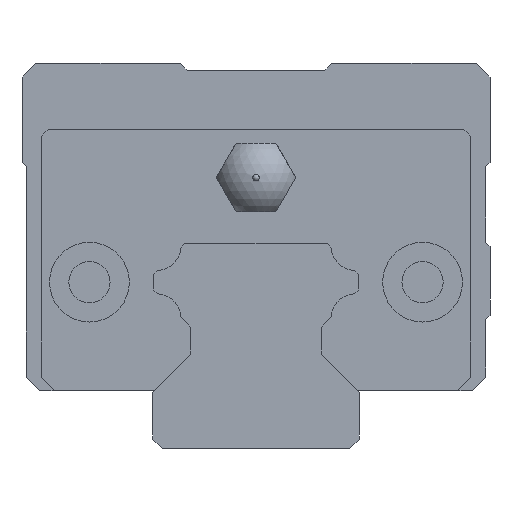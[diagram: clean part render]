
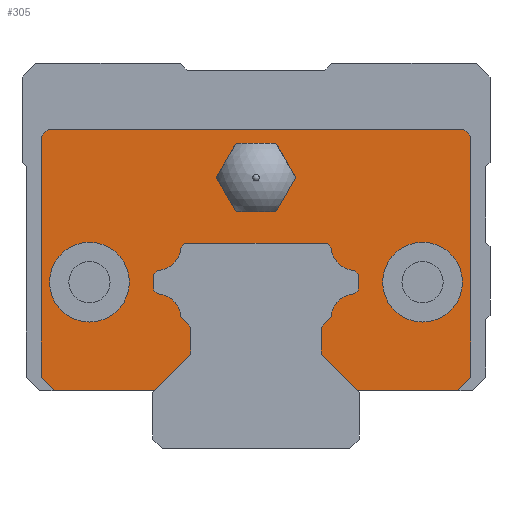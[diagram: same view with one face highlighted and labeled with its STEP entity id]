
A CAD part, front view. The second image highlights one B-rep face of the part: STEP entity #305.
In plain terms, the highlighted planar face has unit normal (0, -1, 0).
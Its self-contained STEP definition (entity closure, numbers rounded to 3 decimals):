
#141=FACE_BOUND('',#657,.T.);
#142=FACE_BOUND('',#658,.T.);
#190=CIRCLE('',#2401,1.8);
#192=CIRCLE('',#2407,1.8);
#194=CIRCLE('',#2413,1.8);
#196=CIRCLE('',#2419,1.8);
#203=CIRCLE('',#2458,2.9);
#204=CIRCLE('',#2459,2.9);
#305=ADVANCED_FACE('',(#141,#142,#533),#427,.F.);
#427=PLANE('',#2460);
#533=FACE_OUTER_BOUND('',#659,.T.);
#657=EDGE_LOOP('',(#1039));
#658=EDGE_LOOP('',(#1040));
#659=EDGE_LOOP('',(#1041,#1042,#1043,#1044,#1045,#1046,#1047,#1048,#1049,
#1050,#1051,#1052,#1053,#1054,#1055,#1056,#1057,#1058,#1059,#1060,#1061,
#1062,#1063,#1064,#1065,#1066,#1067,#1068));
#1039=ORIENTED_EDGE('',*,*,#1754,.F.);
#1040=ORIENTED_EDGE('',*,*,#1755,.F.);
#1041=ORIENTED_EDGE('',*,*,#1740,.F.);
#1042=ORIENTED_EDGE('',*,*,#1753,.T.);
#1043=ORIENTED_EDGE('',*,*,#1751,.T.);
#1044=ORIENTED_EDGE('',*,*,#1749,.T.);
#1045=ORIENTED_EDGE('',*,*,#1686,.T.);
#1046=ORIENTED_EDGE('',*,*,#1681,.F.);
#1047=ORIENTED_EDGE('',*,*,#1678,.F.);
#1048=ORIENTED_EDGE('',*,*,#1675,.T.);
#1049=ORIENTED_EDGE('',*,*,#1672,.F.);
#1050=ORIENTED_EDGE('',*,*,#1669,.F.);
#1051=ORIENTED_EDGE('',*,*,#1666,.T.);
#1052=ORIENTED_EDGE('',*,*,#1663,.T.);
#1053=ORIENTED_EDGE('',*,*,#1660,.T.);
#1054=ORIENTED_EDGE('',*,*,#1657,.T.);
#1055=ORIENTED_EDGE('',*,*,#1654,.F.);
#1056=ORIENTED_EDGE('',*,*,#1651,.T.);
#1057=ORIENTED_EDGE('',*,*,#1648,.F.);
#1058=ORIENTED_EDGE('',*,*,#1645,.T.);
#1059=ORIENTED_EDGE('',*,*,#1642,.T.);
#1060=ORIENTED_EDGE('',*,*,#1639,.T.);
#1061=ORIENTED_EDGE('',*,*,#1636,.T.);
#1062=ORIENTED_EDGE('',*,*,#1633,.T.);
#1063=ORIENTED_EDGE('',*,*,#1630,.F.);
#1064=ORIENTED_EDGE('',*,*,#1624,.T.);
#1065=ORIENTED_EDGE('',*,*,#1748,.T.);
#1066=ORIENTED_EDGE('',*,*,#1746,.F.);
#1067=ORIENTED_EDGE('',*,*,#1744,.F.);
#1068=ORIENTED_EDGE('',*,*,#1742,.F.);
#1398=VERTEX_POINT('',#3277);
#1399=VERTEX_POINT('',#3279);
#1402=VERTEX_POINT('',#3287);
#1404=VERTEX_POINT('',#3293);
#1406=VERTEX_POINT('',#3299);
#1408=VERTEX_POINT('',#3305);
#1410=VERTEX_POINT('',#3311);
#1412=VERTEX_POINT('',#3317);
#1414=VERTEX_POINT('',#3323);
#1416=VERTEX_POINT('',#3329);
#1418=VERTEX_POINT('',#3335);
#1420=VERTEX_POINT('',#3341);
#1422=VERTEX_POINT('',#3347);
#1424=VERTEX_POINT('',#3353);
#1426=VERTEX_POINT('',#3359);
#1428=VERTEX_POINT('',#3365);
#1430=VERTEX_POINT('',#3371);
#1432=VERTEX_POINT('',#3377);
#1434=VERTEX_POINT('',#3383);
#1436=VERTEX_POINT('',#3389);
#1442=VERTEX_POINT('',#3403);
#1481=VERTEX_POINT('',#3516);
#1482=VERTEX_POINT('',#3518);
#1483=VERTEX_POINT('',#3522);
#1484=VERTEX_POINT('',#3526);
#1485=VERTEX_POINT('',#3530);
#1486=VERTEX_POINT('',#3536);
#1487=VERTEX_POINT('',#3540);
#1488=VERTEX_POINT('',#3546);
#1489=VERTEX_POINT('',#3548);
#1624=EDGE_CURVE('',#1399,#1398,#1927,.T.);
#1630=EDGE_CURVE('',#1399,#1402,#1933,.T.);
#1633=EDGE_CURVE('',#1404,#1402,#1936,.T.);
#1636=EDGE_CURVE('',#1406,#1404,#1939,.T.);
#1639=EDGE_CURVE('',#1408,#1406,#190,.T.);
#1642=EDGE_CURVE('',#1410,#1408,#1943,.T.);
#1645=EDGE_CURVE('',#1412,#1410,#1946,.T.);
#1648=EDGE_CURVE('',#1412,#1414,#1949,.T.);
#1651=EDGE_CURVE('',#1416,#1414,#192,.T.);
#1654=EDGE_CURVE('',#1416,#1418,#1953,.T.);
#1657=EDGE_CURVE('',#1420,#1418,#1956,.T.);
#1660=EDGE_CURVE('',#1422,#1420,#1959,.T.);
#1663=EDGE_CURVE('',#1424,#1422,#194,.T.);
#1666=EDGE_CURVE('',#1426,#1424,#1963,.T.);
#1669=EDGE_CURVE('',#1426,#1428,#1966,.T.);
#1672=EDGE_CURVE('',#1428,#1430,#1969,.T.);
#1675=EDGE_CURVE('',#1432,#1430,#196,.T.);
#1678=EDGE_CURVE('',#1432,#1434,#1973,.T.);
#1681=EDGE_CURVE('',#1434,#1436,#1976,.T.);
#1686=EDGE_CURVE('',#1442,#1436,#1981,.T.);
#1740=EDGE_CURVE('',#1481,#1482,#2029,.T.);
#1742=EDGE_CURVE('',#1482,#1483,#2031,.T.);
#1744=EDGE_CURVE('',#1483,#1484,#2033,.T.);
#1746=EDGE_CURVE('',#1484,#1485,#2035,.T.);
#1748=EDGE_CURVE('',#1398,#1485,#2037,.T.);
#1749=EDGE_CURVE('',#1486,#1442,#2038,.T.);
#1751=EDGE_CURVE('',#1487,#1486,#2040,.T.);
#1753=EDGE_CURVE('',#1481,#1487,#2042,.T.);
#1754=EDGE_CURVE('',#1488,#1488,#203,.T.);
#1755=EDGE_CURVE('',#1489,#1489,#204,.T.);
#1927=LINE('',#3278,#2173);
#1933=LINE('',#3290,#2179);
#1936=LINE('',#3296,#2182);
#1939=LINE('',#3302,#2185);
#1943=LINE('',#3314,#2189);
#1946=LINE('',#3320,#2192);
#1949=LINE('',#3326,#2195);
#1953=LINE('',#3338,#2199);
#1956=LINE('',#3344,#2202);
#1959=LINE('',#3350,#2205);
#1963=LINE('',#3362,#2209);
#1966=LINE('',#3368,#2212);
#1969=LINE('',#3374,#2215);
#1973=LINE('',#3386,#2219);
#1976=LINE('',#3392,#2222);
#1981=LINE('',#3402,#2227);
#2029=LINE('',#3517,#2275);
#2031=LINE('',#3521,#2277);
#2033=LINE('',#3525,#2279);
#2035=LINE('',#3529,#2281);
#2037=LINE('',#3533,#2283);
#2038=LINE('',#3535,#2284);
#2040=LINE('',#3539,#2286);
#2042=LINE('',#3543,#2288);
#2173=VECTOR('',#2637,1.);
#2179=VECTOR('',#2645,1.);
#2182=VECTOR('',#2650,1.);
#2185=VECTOR('',#2655,1.);
#2189=VECTOR('',#2667,1.);
#2192=VECTOR('',#2672,1.);
#2195=VECTOR('',#2677,1.);
#2199=VECTOR('',#2689,1.);
#2202=VECTOR('',#2694,1.);
#2205=VECTOR('',#2699,1.);
#2209=VECTOR('',#2711,1.);
#2212=VECTOR('',#2716,1.);
#2215=VECTOR('',#2721,1.);
#2219=VECTOR('',#2733,1.);
#2222=VECTOR('',#2738,1.);
#2227=VECTOR('',#2745,1.);
#2275=VECTOR('',#2847,1.);
#2277=VECTOR('',#2851,1.);
#2279=VECTOR('',#2855,1.);
#2281=VECTOR('',#2859,1.);
#2283=VECTOR('',#2863,1.);
#2284=VECTOR('',#2866,1.);
#2286=VECTOR('',#2870,1.);
#2288=VECTOR('',#2874,1.);
#2401=AXIS2_PLACEMENT_3D('',#3308,#2661,#2662);
#2407=AXIS2_PLACEMENT_3D('',#3332,#2683,#2684);
#2413=AXIS2_PLACEMENT_3D('',#3356,#2705,#2706);
#2419=AXIS2_PLACEMENT_3D('',#3380,#2727,#2728);
#2458=AXIS2_PLACEMENT_3D('',#3545,#2877,#2878);
#2459=AXIS2_PLACEMENT_3D('',#3547,#2879,#2880);
#2460=AXIS2_PLACEMENT_3D('',#3549,#2881,#2882);
#2637=DIRECTION('',(1.,0.,0.));
#2645=DIRECTION('',(-0.707,0.,0.707));
#2650=DIRECTION('',(0.,0.,-1.));
#2655=DIRECTION('',(-0.707,0.,-0.707));
#2661=DIRECTION('',(0.,-1.,0.));
#2662=DIRECTION('',(1.,0.,0.));
#2667=DIRECTION('',(-0.707,0.,-0.707));
#2672=DIRECTION('',(0.,0.,-1.));
#2677=DIRECTION('',(-0.707,0.,0.707));
#2683=DIRECTION('',(0.,-1.,0.));
#2684=DIRECTION('',(1.,0.,0.));
#2689=DIRECTION('',(-0.707,0.,0.707));
#2694=DIRECTION('',(1.,0.,0.));
#2699=DIRECTION('',(0.707,0.,0.707));
#2705=DIRECTION('',(0.,-1.,0.));
#2706=DIRECTION('',(1.,0.,0.));
#2711=DIRECTION('',(0.707,0.,0.707));
#2716=DIRECTION('',(0.,0.,-1.));
#2721=DIRECTION('',(0.707,0.,-0.707));
#2727=DIRECTION('',(0.,-1.,0.));
#2728=DIRECTION('',(1.,0.,0.));
#2733=DIRECTION('',(0.707,0.,-0.707));
#2738=DIRECTION('',(0.,0.,-1.));
#2745=DIRECTION('',(0.707,0.,0.707));
#2847=DIRECTION('',(0.707,0.,0.707));
#2851=DIRECTION('',(1.,0.,0.));
#2855=DIRECTION('',(0.707,0.,-0.707));
#2859=DIRECTION('',(0.,0.,-1.));
#2863=DIRECTION('',(0.707,0.,0.707));
#2866=DIRECTION('',(1.,0.,0.));
#2870=DIRECTION('',(0.707,0.,-0.707));
#2874=DIRECTION('',(0.,0.,-1.));
#2877=DIRECTION('',(0.,-1.,0.));
#2878=DIRECTION('',(0.,0.,-1.));
#2879=DIRECTION('',(0.,-1.,0.));
#2880=DIRECTION('',(0.,0.,-1.));
#2881=DIRECTION('',(0.,1.,0.));
#2882=DIRECTION('',(0.,0.,-1.));
#3277=CARTESIAN_POINT('',(14.6,-43.6,-19.65));
#3278=CARTESIAN_POINT('',(7.401,-43.6,-19.65));
#3279=CARTESIAN_POINT('',(7.401,-43.6,-19.65));
#3287=CARTESIAN_POINT('',(4.73,-43.6,-16.979));
#3290=CARTESIAN_POINT('',(7.401,-43.6,-19.65));
#3293=CARTESIAN_POINT('',(4.73,-43.6,-15.021));
#3296=CARTESIAN_POINT('',(4.73,-43.6,-15.021));
#3299=CARTESIAN_POINT('',(5.447,-43.6,-14.304));
#3302=CARTESIAN_POINT('',(5.447,-43.6,-14.304));
#3305=CARTESIAN_POINT('',(7.154,-43.6,-12.597));
#3308=CARTESIAN_POINT('',(7.245,-43.6,-14.395));
#3311=CARTESIAN_POINT('',(7.43,-43.6,-12.321));
#3314=CARTESIAN_POINT('',(7.43,-43.6,-12.321));
#3317=CARTESIAN_POINT('',(7.43,-43.6,-11.179));
#3320=CARTESIAN_POINT('',(7.43,-43.6,-11.179));
#3323=CARTESIAN_POINT('',(7.154,-43.6,-10.903));
#3326=CARTESIAN_POINT('',(7.43,-43.6,-11.179));
#3329=CARTESIAN_POINT('',(5.447,-43.6,-9.196));
#3332=CARTESIAN_POINT('',(7.245,-43.6,-9.105));
#3335=CARTESIAN_POINT('',(5.171,-43.6,-8.92));
#3338=CARTESIAN_POINT('',(5.447,-43.6,-9.196));
#3341=CARTESIAN_POINT('',(-5.171,-43.6,-8.92));
#3344=CARTESIAN_POINT('',(-5.171,-43.6,-8.92));
#3347=CARTESIAN_POINT('',(-5.447,-43.6,-9.196));
#3350=CARTESIAN_POINT('',(-5.447,-43.6,-9.196));
#3353=CARTESIAN_POINT('',(-7.154,-43.6,-10.903));
#3356=CARTESIAN_POINT('',(-7.245,-43.6,-9.105));
#3359=CARTESIAN_POINT('',(-7.43,-43.6,-11.179));
#3362=CARTESIAN_POINT('',(-7.43,-43.6,-11.179));
#3365=CARTESIAN_POINT('',(-7.43,-43.6,-12.321));
#3368=CARTESIAN_POINT('',(-7.43,-43.6,-11.179));
#3371=CARTESIAN_POINT('',(-7.154,-43.6,-12.597));
#3374=CARTESIAN_POINT('',(-7.43,-43.6,-12.321));
#3377=CARTESIAN_POINT('',(-5.447,-43.6,-14.304));
#3380=CARTESIAN_POINT('',(-7.245,-43.6,-14.395));
#3383=CARTESIAN_POINT('',(-4.73,-43.6,-15.021));
#3386=CARTESIAN_POINT('',(-5.447,-43.6,-14.304));
#3389=CARTESIAN_POINT('',(-4.73,-43.6,-16.979));
#3392=CARTESIAN_POINT('',(-4.73,-43.6,-15.021));
#3402=CARTESIAN_POINT('',(-7.401,-43.6,-19.65));
#3403=CARTESIAN_POINT('',(-7.401,-43.6,-19.65));
#3516=CARTESIAN_POINT('',(-15.6,-43.6,-1.15));
#3517=CARTESIAN_POINT('',(-15.6,-43.6,-1.15));
#3518=CARTESIAN_POINT('',(-15.1,-43.6,-0.65));
#3521=CARTESIAN_POINT('',(-15.1,-43.6,-0.65));
#3522=CARTESIAN_POINT('',(15.1,-43.6,-0.65));
#3525=CARTESIAN_POINT('',(15.1,-43.6,-0.65));
#3526=CARTESIAN_POINT('',(15.6,-43.6,-1.15));
#3529=CARTESIAN_POINT('',(15.6,-43.6,-1.15));
#3530=CARTESIAN_POINT('',(15.6,-43.6,-18.65));
#3533=CARTESIAN_POINT('',(14.6,-43.6,-19.65));
#3535=CARTESIAN_POINT('',(-14.6,-43.6,-19.65));
#3536=CARTESIAN_POINT('',(-14.6,-43.6,-19.65));
#3539=CARTESIAN_POINT('',(-15.6,-43.6,-18.65));
#3540=CARTESIAN_POINT('',(-15.6,-43.6,-18.65));
#3543=CARTESIAN_POINT('',(-15.6,-43.6,-1.15));
#3545=CARTESIAN_POINT('',(12.1,-43.6,-11.75));
#3546=CARTESIAN_POINT('',(12.1,-43.6,-14.65));
#3547=CARTESIAN_POINT('',(-12.1,-43.6,-11.75));
#3548=CARTESIAN_POINT('',(-12.1,-43.6,-14.65));
#3549=CARTESIAN_POINT('',(7.245,-43.6,-14.395));
